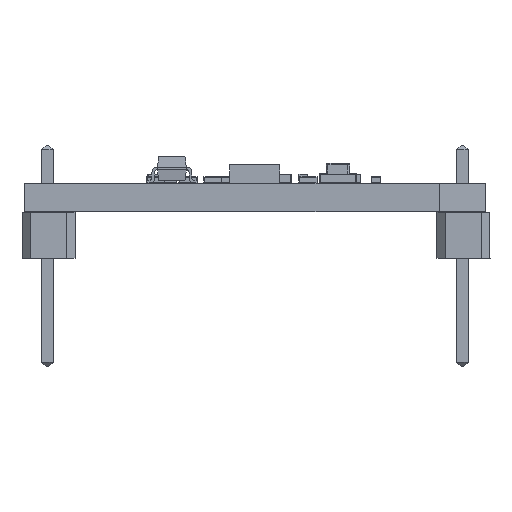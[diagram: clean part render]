
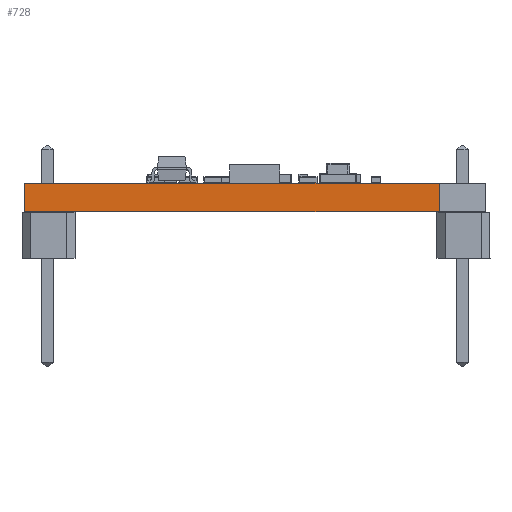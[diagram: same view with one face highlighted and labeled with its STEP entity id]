
A CAD part, front view. The second image highlights one B-rep face of the part: STEP entity #728.
In plain terms, the highlighted planar face has unit normal (0, -1, 0).
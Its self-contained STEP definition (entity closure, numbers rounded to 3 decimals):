
#703 = VERTEX_POINT('',#704);
#704 = CARTESIAN_POINT('',(21.59,-3.81,0.));
#710 = EDGE_CURVE('',#711,#703,#713,.T.);
#711 = VERTEX_POINT('',#712);
#712 = CARTESIAN_POINT('',(21.59,-3.81,-1.59));
#713 = LINE('',#714,#715);
#714 = CARTESIAN_POINT('',(21.59,-3.81,-1.59));
#715 = VECTOR('',#716,1.);
#716 = DIRECTION('',(0.,0.,1.));
#728 = ADVANCED_FACE('',(#729),#754,.T.);
#729 = FACE_BOUND('',#730,.T.);
#730 = EDGE_LOOP('',(#731,#732,#740,#748));
#731 = ORIENTED_EDGE('',*,*,#710,.T.);
#732 = ORIENTED_EDGE('',*,*,#733,.T.);
#733 = EDGE_CURVE('',#703,#734,#736,.T.);
#734 = VERTEX_POINT('',#735);
#735 = CARTESIAN_POINT('',(-1.27,-3.81,0.));
#736 = LINE('',#737,#738);
#737 = CARTESIAN_POINT('',(21.59,-3.81,0.));
#738 = VECTOR('',#739,1.);
#739 = DIRECTION('',(-1.,0.,0.));
#740 = ORIENTED_EDGE('',*,*,#741,.F.);
#741 = EDGE_CURVE('',#742,#734,#744,.T.);
#742 = VERTEX_POINT('',#743);
#743 = CARTESIAN_POINT('',(-1.27,-3.81,-1.59));
#744 = LINE('',#745,#746);
#745 = CARTESIAN_POINT('',(-1.27,-3.81,-1.59));
#746 = VECTOR('',#747,1.);
#747 = DIRECTION('',(0.,0.,1.));
#748 = ORIENTED_EDGE('',*,*,#749,.F.);
#749 = EDGE_CURVE('',#711,#742,#750,.T.);
#750 = LINE('',#751,#752);
#751 = CARTESIAN_POINT('',(21.59,-3.81,-1.59));
#752 = VECTOR('',#753,1.);
#753 = DIRECTION('',(-1.,0.,0.));
#754 = PLANE('',#755);
#755 = AXIS2_PLACEMENT_3D('',#756,#757,#758);
#756 = CARTESIAN_POINT('',(21.59,-3.81,-1.59));
#757 = DIRECTION('',(0.,-1.,0.));
#758 = DIRECTION('',(-1.,0.,0.));
